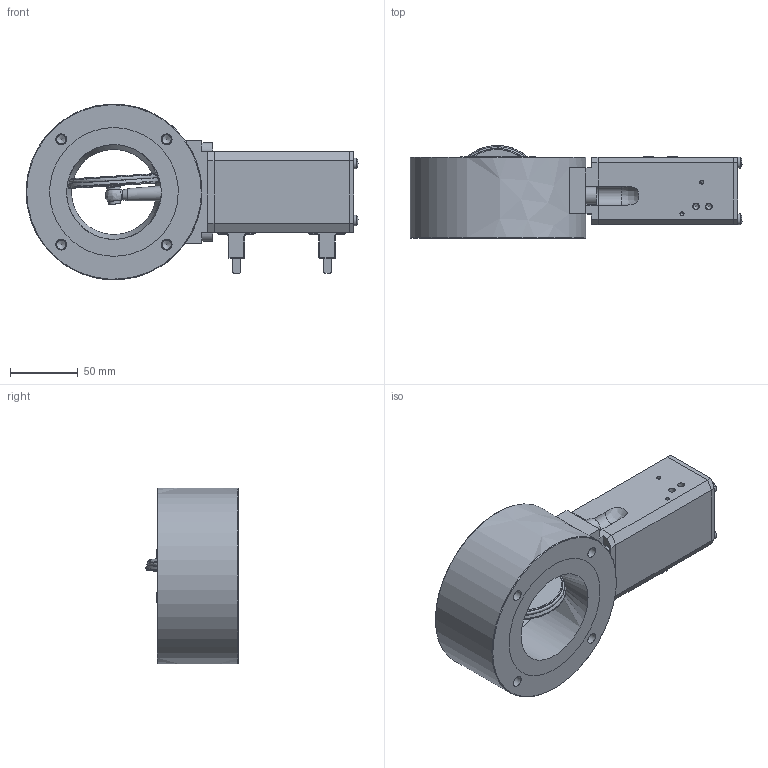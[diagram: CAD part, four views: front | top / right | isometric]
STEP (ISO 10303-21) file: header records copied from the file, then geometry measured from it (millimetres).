
FILE_DESCRIPTION((''),'2;1');
FILE_NAME('O:\MT\MT\Systeme\Cad\Datenexporte\www_vat_ch\245052.stp','2004-06-17T14:30:20',('User'),('SDRC'),'I-DEAS Master Series 9','UNIX','Yes');
FILE_SCHEMA(('CONFIG_CONTROL_DESIGN'));
Length unit declared in the file: millimetre
Assembly tree (33 placements, depth 0):
Bounding box: 245.32 x 68.58 x 129.99 mm (x, y, z)
Volume: 793659.8 mm3; surface area: 165270.1 mm2
Topology: 43 solids, 43 shells, 1125 faces, 2723 edges, 1768 vertices
Faces by surface type: bspline 1125
Entity records: 27305 total; most frequent: CARTESIAN_POINT 13194, ORIENTED_EDGE 3444, EDGE_CURVE 1722, VERTEX_POINT 1131, EDGE_LOOP 921, QUASI_UNIFORM_CURVE 746, FACE_OUTER_BOUND 740, ADVANCED_FACE 740
